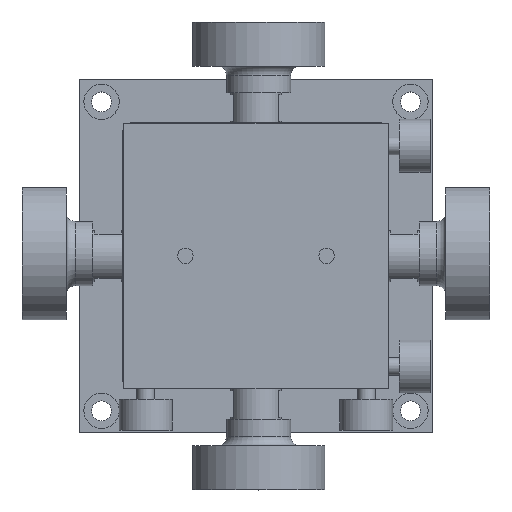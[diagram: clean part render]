
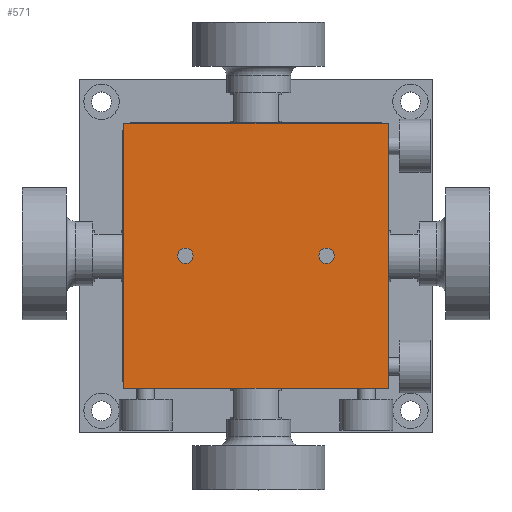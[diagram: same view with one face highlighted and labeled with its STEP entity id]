
A CAD part, top view. The second image highlights one B-rep face of the part: STEP entity #571.
In plain terms, the highlighted planar face has unit normal (0, 0, 1).
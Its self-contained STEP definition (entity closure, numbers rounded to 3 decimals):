
#571 = ADVANCED_FACE( '', ( #1255, #1256, #1257 ), #1258, .T. );
#1255 = FACE_BOUND( '', #2045, .T. );
#1256 = FACE_BOUND( '', #2046, .T. );
#1257 = FACE_OUTER_BOUND( '', #2047, .T. );
#1258 = PLANE( '', #2048 );
#2045 = EDGE_LOOP( '', ( #4092 ) );
#2046 = EDGE_LOOP( '', ( #4093 ) );
#2047 = EDGE_LOOP( '', ( #4094, #4095, #4096, #4097 ) );
#2048 = AXIS2_PLACEMENT_3D( '', #4098, #4099, #4100 );
#4092 = ORIENTED_EDGE( '', *, *, #5063, .F. );
#4093 = ORIENTED_EDGE( '', *, *, #5064, .F. );
#4094 = ORIENTED_EDGE( '', *, *, #5004, .F. );
#4095 = ORIENTED_EDGE( '', *, *, #5045, .F. );
#4096 = ORIENTED_EDGE( '', *, *, #5065, .F. );
#4097 = ORIENTED_EDGE( '', *, *, #5031, .F. );
#4098 = CARTESIAN_POINT( '', ( 0., 0., 73. ) );
#4099 = DIRECTION( '', ( 0., 0., 1. ) );
#4100 = DIRECTION( '', ( 0., -1., 0. ) );
#5004 = EDGE_CURVE( '', #6037, #6039, #6040, .T. );
#5031 = EDGE_CURVE( '', #6039, #6087, #6088, .T. );
#5045 = EDGE_CURVE( '', #6111, #6037, #6113, .T. );
#5063 = EDGE_CURVE( '', #6145, #6145, #6146, .T. );
#5064 = EDGE_CURVE( '', #6147, #6147, #6148, .T. );
#5065 = EDGE_CURVE( '', #6087, #6111, #6149, .T. );
#6037 = VERTEX_POINT( '', #7532 );
#6039 = VERTEX_POINT( '', #7535 );
#6040 = LINE( '', #7536, #7537 );
#6087 = VERTEX_POINT( '', #7609 );
#6088 = LINE( '', #7610, #7611 );
#6111 = VERTEX_POINT( '', #7646 );
#6113 = LINE( '', #7649, #7650 );
#6145 = VERTEX_POINT( '', #7696 );
#6146 = CIRCLE( '', #7697, 1.75 );
#6147 = VERTEX_POINT( '', #7698 );
#6148 = CIRCLE( '', #7699, 1.75 );
#6149 = LINE( '', #7700, #7701 );
#7532 = CARTESIAN_POINT( '', ( -30., 30., 73. ) );
#7535 = CARTESIAN_POINT( '', ( 30., 30., 73. ) );
#7536 = CARTESIAN_POINT( '', ( 0., 30., 73. ) );
#7537 = VECTOR( '', #8700, 1000. );
#7609 = CARTESIAN_POINT( '', ( 30., -30., 73. ) );
#7610 = CARTESIAN_POINT( '', ( 30., 0., 73. ) );
#7611 = VECTOR( '', #8729, 1000. );
#7646 = CARTESIAN_POINT( '', ( -30., -30., 73. ) );
#7649 = CARTESIAN_POINT( '', ( -30., 0., 73. ) );
#7650 = VECTOR( '', #8743, 1000. );
#7696 = CARTESIAN_POINT( '', ( 16., -1.75, 73. ) );
#7697 = AXIS2_PLACEMENT_3D( '', #8767, #8768, #8769 );
#7698 = CARTESIAN_POINT( '', ( -16., -1.75, 73. ) );
#7699 = AXIS2_PLACEMENT_3D( '', #8770, #8771, #8772 );
#7700 = CARTESIAN_POINT( '', ( 0., -30., 73. ) );
#7701 = VECTOR( '', #8773, 1000. );
#8700 = DIRECTION( '', ( 1., 0., 0. ) );
#8729 = DIRECTION( '', ( 0., -1., 0. ) );
#8743 = DIRECTION( '', ( 0., 1., 0. ) );
#8767 = CARTESIAN_POINT( '', ( 16., 0., 73. ) );
#8768 = DIRECTION( '', ( 0., 0., 1. ) );
#8769 = DIRECTION( '', ( 0., -1., 0. ) );
#8770 = CARTESIAN_POINT( '', ( -16., 0., 73. ) );
#8771 = DIRECTION( '', ( 0., 0., 1. ) );
#8772 = DIRECTION( '', ( 0., -1., 0. ) );
#8773 = DIRECTION( '', ( -1., 0., 0. ) );
